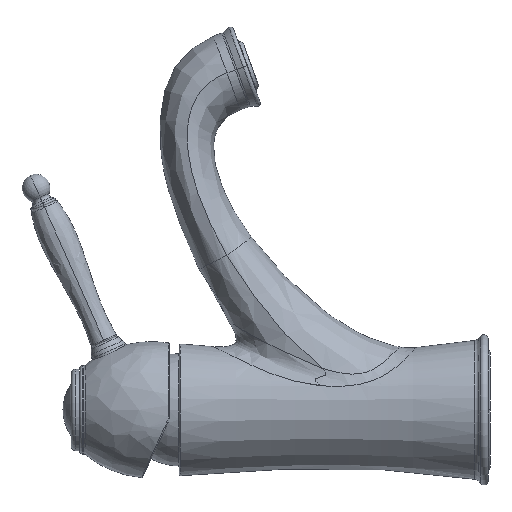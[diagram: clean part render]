
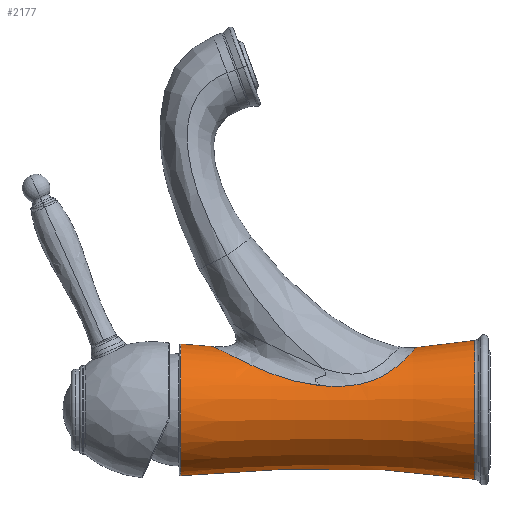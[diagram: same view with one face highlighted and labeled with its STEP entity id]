
A CAD part, left-side view. The second image highlights one B-rep face of the part: STEP entity #2177.
In plain terms, the highlighted face is a revolution surface.
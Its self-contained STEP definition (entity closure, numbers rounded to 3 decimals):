
#249=CARTESIAN_POINT('',(0.,109.457,0.));
#250=DIRECTION('',(0.,-1.,0.));
#251=DIRECTION('',(0.,0.,1.));
#252=AXIS2_PLACEMENT_3D('',#249,#250,#251);
#254=CARTESIAN_POINT('',(-19.033,59.841,8.669));
#255=CARTESIAN_POINT('',(-18.993,60.887,8.771));
#256=CARTESIAN_POINT('',(-18.892,62.959,9.035));
#257=CARTESIAN_POINT('',(-18.676,66.011,9.583));
#258=CARTESIAN_POINT('',(-18.387,69.008,10.269));
#259=CARTESIAN_POINT('',(-18.009,71.948,11.08));
#260=CARTESIAN_POINT('',(-17.527,74.826,12.005));
#261=CARTESIAN_POINT('',(-16.921,77.636,13.031));
#262=CARTESIAN_POINT('',(-16.17,80.373,14.14));
#263=CARTESIAN_POINT('',(-15.257,83.026,15.308));
#264=CARTESIAN_POINT('',(-14.168,85.586,16.505));
#265=CARTESIAN_POINT('',(-13.104,87.637,17.499));
#266=CARTESIAN_POINT('',(-12.154,89.224,18.277));
#267=CARTESIAN_POINT('',(-11.389,90.385,18.847));
#268=CARTESIAN_POINT('',(-10.569,91.514,19.401));
#269=CARTESIAN_POINT('',(-9.689,92.602,19.935));
#270=CARTESIAN_POINT('',(-8.746,93.645,20.442));
#271=CARTESIAN_POINT('',(-7.736,94.631,20.919));
#272=CARTESIAN_POINT('',(-6.648,95.542,21.356));
#273=CARTESIAN_POINT('',(-5.479,96.362,21.746));
#274=CARTESIAN_POINT('',(-4.222,97.063,22.077));
#275=CARTESIAN_POINT('',(-2.876,97.608,22.334));
#276=CARTESIAN_POINT('',(-1.459,97.952,22.497));
#277=CARTESIAN_POINT('',(-0.486,98.031,22.534));
#278=CARTESIAN_POINT('',(0.,98.031,22.534));
#280=CARTESIAN_POINT('',(0.,25.66,22.186));
#281=CARTESIAN_POINT('',(-0.235,25.66,22.186));
#282=CARTESIAN_POINT('',(-0.721,25.668,22.178));
#283=CARTESIAN_POINT('',(-1.485,25.706,22.137));
#284=CARTESIAN_POINT('',(-2.315,25.775,22.061));
#285=CARTESIAN_POINT('',(-3.207,25.883,21.941));
#286=CARTESIAN_POINT('',(-4.123,26.031,21.775));
#287=CARTESIAN_POINT('',(-5.034,26.217,21.566));
#288=CARTESIAN_POINT('',(-5.934,26.44,21.317));
#289=CARTESIAN_POINT('',(-6.821,26.701,21.027));
#290=CARTESIAN_POINT('',(-7.685,26.997,20.701));
#291=CARTESIAN_POINT('',(-8.528,27.331,20.339));
#292=CARTESIAN_POINT('',(-9.361,27.708,19.936));
#293=CARTESIAN_POINT('',(-10.184,28.133,19.491));
#294=CARTESIAN_POINT('',(-10.989,28.606,19.006));
#295=CARTESIAN_POINT('',(-11.77,29.125,18.487));
#296=CARTESIAN_POINT('',(-12.519,29.688,17.937));
#297=CARTESIAN_POINT('',(-13.232,30.294,17.362));
#298=CARTESIAN_POINT('',(-13.904,30.942,16.77));
#299=CARTESIAN_POINT('',(-14.528,31.628,16.168));
#300=CARTESIAN_POINT('',(-15.108,32.357,15.56));
#301=CARTESIAN_POINT('',(-15.651,33.138,14.942));
#302=CARTESIAN_POINT('',(-16.156,33.976,14.316));
#303=CARTESIAN_POINT('',(-16.611,34.854,13.702));
#304=CARTESIAN_POINT('',(-17.008,35.741,13.123));
#305=CARTESIAN_POINT('',(-17.35,36.626,12.586));
#306=CARTESIAN_POINT('',(-17.644,37.511,12.089));
#307=CARTESIAN_POINT('',(-17.898,38.4,11.629));
#308=CARTESIAN_POINT('',(-18.118,39.296,11.203));
#309=CARTESIAN_POINT('',(-18.309,40.205,10.81));
#310=CARTESIAN_POINT('',(-18.476,41.144,10.441));
#311=CARTESIAN_POINT('',(-18.626,42.143,10.09));
#312=CARTESIAN_POINT('',(-18.757,43.199,9.762));
#313=CARTESIAN_POINT('',(-18.869,44.311,9.46));
#314=CARTESIAN_POINT('',(-18.964,45.488,9.188));
#315=CARTESIAN_POINT('',(-19.041,46.734,8.947));
#316=CARTESIAN_POINT('',(-19.102,48.082,8.738));
#317=CARTESIAN_POINT('',(-19.148,49.564,8.563));
#318=CARTESIAN_POINT('',(-19.176,51.202,8.433));
#319=CARTESIAN_POINT('',(-19.184,53.041,8.358));
#320=CARTESIAN_POINT('',(-19.167,55.119,8.357));
#321=CARTESIAN_POINT('',(-19.12,57.414,8.451));
#322=CARTESIAN_POINT('',(-19.066,59.016,8.585));
#323=CARTESIAN_POINT('',(-19.033,59.841,8.669));
#325=CARTESIAN_POINT('',(0.,4.651,0.));
#326=DIRECTION('',(0.,-1.,0.));
#327=DIRECTION('',(0.,0.,1.));
#328=AXIS2_PLACEMENT_3D('',#325,#326,#327);
#345=CARTESIAN_POINT('',(0.,4.651,
-24.722));
#346=CARTESIAN_POINT('',(0.,39.136,
-19.264));
#347=CARTESIAN_POINT('',(0.,74.663,
-20.428));
#348=CARTESIAN_POINT('',(0.,109.457,
-23.453));
#355=CARTESIAN_POINT('',(0.,4.651,24.722));
#356=CARTESIAN_POINT('',(0.,11.616,23.62));
#357=CARTESIAN_POINT('',(0.,18.624,22.788));
#358=CARTESIAN_POINT('',(0.,25.66,22.186));
#418=CARTESIAN_POINT('',(0.,98.031,22.534));
#419=CARTESIAN_POINT('',(0.,101.847,22.814));
#420=CARTESIAN_POINT('',(0.,105.656,
23.122));
#421=CARTESIAN_POINT('',(0.,109.457,
23.453));
#709=VERTEX_POINT('',#280);
#710=VERTEX_POINT('',#323);
#713=VERTEX_POINT('',#278);
#734=CARTESIAN_POINT('',(0.,4.651,
-24.722));
#735=CARTESIAN_POINT('',(0.,4.651,24.722));
#736=VERTEX_POINT('',#734);
#737=VERTEX_POINT('',#735);
#746=CARTESIAN_POINT('',(0.,109.457,
-23.453));
#747=CARTESIAN_POINT('',(0.,109.457,23.453));
#748=VERTEX_POINT('',#746);
#749=VERTEX_POINT('',#747);
#2154=CARTESIAN_POINT('',(0.,3.613,-24.888));
#2155=CARTESIAN_POINT('',(0.,38.769,-19.185));
#2156=CARTESIAN_POINT('',(0.,75.027,-20.422));
#2157=CARTESIAN_POINT('',(0.,110.503,-23.544));
#2159=CARTESIAN_POINT('',(0.,-5.5,0.));
#2160=DIRECTION('',(0.,1.,0.));
#2161=AXIS1_PLACEMENT('',#2159,#2160);
#2162=SURFACE_OF_REVOLUTION('',#2158,#2161);
#2164=ORIENTED_EDGE('',*,*,#2163,.F.);
#2166=ORIENTED_EDGE('',*,*,#2165,.F.);
#2167=ORIENTED_EDGE('',*,*,#2145,.F.);
#2168=ORIENTED_EDGE('',*,*,#1350,.F.);
#2170=ORIENTED_EDGE('',*,*,#2169,.F.);
#2172=ORIENTED_EDGE('',*,*,#2171,.T.);
#2174=ORIENTED_EDGE('',*,*,#2173,.T.);
#2175=EDGE_LOOP('',(#2164,#2166,#2167,#2168,#2170,#2172,#2174));
#2176=FACE_OUTER_BOUND('',#2175,.F.);
#2177=ADVANCED_FACE('',(#2176),#2162,.T.);
#253=CIRCLE('',#252,23.453);
#279=B_SPLINE_CURVE_WITH_KNOTS('',3,(#254,#255,#256,#257,#258,#259,#260,#261,
#262,#263,#264,#265,#266,#267,#268,#269,#270,#271,#272,#273,#274,#275,#276,#277,
#278),.UNSPECIFIED.,.F.,.F.,(4,1,1,1,1,1,1,1,1,1,1,1,1,1,1,1,1,1,1,1,1,1,4),(
0.,0.063,0.125,0.188,0.25,0.313,0.375,0.438,0.5,0.563,
0.625,0.656,0.688,0.719,0.75,0.781,0.813,0.844,
0.875,0.906,0.938,0.969,1.),.UNSPECIFIED.);
#324=B_SPLINE_CURVE_WITH_KNOTS('',3,(#280,#281,#282,#283,#284,#285,#286,#287,
#288,#289,#290,#291,#292,#293,#294,#295,#296,#297,#298,#299,#300,#301,#302,#303,
#304,#305,#306,#307,#308,#309,#310,#311,#312,#313,#314,#315,#316,#317,#318,#319,
#320,#321,#322,#323),.UNSPECIFIED.,.F.,.F.,(4,1,1,1,1,1,1,1,1,1,1,1,1,1,1,1,1,1,
1,1,1,1,1,1,1,1,1,1,1,1,1,1,1,1,1,1,1,1,1,1,1,4),(0.,0.024,
0.049,0.073,0.098,0.122,
0.146,0.171,0.195,0.22,
0.244,0.268,0.293,0.317,
0.341,0.366,0.39,0.415,
0.439,0.463,0.488,0.512,
0.537,0.561,0.585,0.61,
0.634,0.659,0.683,0.707,
0.732,0.756,0.78,0.805,
0.829,0.854,0.878,0.902,
0.927,0.951,0.976,1.),.UNSPECIFIED.);
#329=CIRCLE('',#328,24.722);
#349=B_SPLINE_CURVE_WITH_KNOTS('',3,(#345,#346,#347,#348),.UNSPECIFIED.,.F.,.F.,
(4,4),(0.,1.),.UNSPECIFIED.);
#359=B_SPLINE_CURVE_WITH_KNOTS('',3,(#355,#356,#357,#358),.UNSPECIFIED.,.F.,.F.,
(4,4),(0.,1.),.UNSPECIFIED.);
#422=B_SPLINE_CURVE_WITH_KNOTS('',3,(#418,#419,#420,#421),.UNSPECIFIED.,.F.,.F.,
(4,4),(0.,1.),.UNSPECIFIED.);
#1350=EDGE_CURVE('',#709,#710,#324,.T.);
#2145=EDGE_CURVE('',#710,#713,#279,.T.);
#2158=B_SPLINE_CURVE_WITH_KNOTS('',3,(#2154,#2155,#2156,#2157),.UNSPECIFIED.,
.F.,.F.,(4,4),(0.,1.),.UNSPECIFIED.);
#2163=EDGE_CURVE('',#749,#748,#253,.T.);
#2165=EDGE_CURVE('',#713,#749,#422,.T.);
#2169=EDGE_CURVE('',#737,#709,#359,.T.);
#2171=EDGE_CURVE('',#737,#736,#329,.T.);
#2173=EDGE_CURVE('',#736,#748,#349,.T.);
